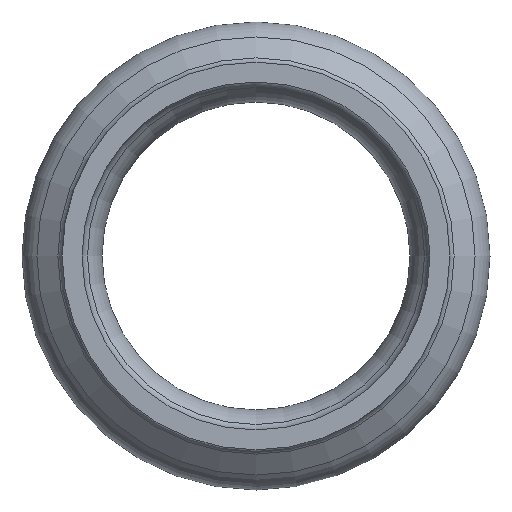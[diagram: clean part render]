
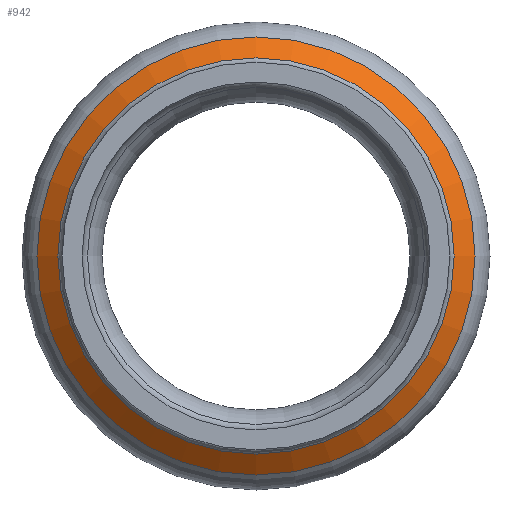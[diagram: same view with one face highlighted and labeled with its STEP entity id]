
A CAD part, left-side view. The second image highlights one B-rep face of the part: STEP entity #942.
In plain terms, the highlighted conical face has half-angle 52.062 degrees and reference radius 28.939 mm.
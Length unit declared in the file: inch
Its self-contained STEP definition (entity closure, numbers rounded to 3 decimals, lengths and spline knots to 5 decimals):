
#59=LINE('',#1597,#77);
#77=VECTOR('',#1210,1.13934);
#95=CONICAL_SURFACE('',#1009,1.13934,0.909);
#104=FACE_OUTER_BOUND('',#144,.T.);
#144=EDGE_LOOP('',(#587,#588,#589,#590,#591,#592,#593,#594));
#187=CIRCLE('',#1004,1.08211);
#188=CIRCLE('',#1005,1.08211);
#189=CIRCLE('',#1006,1.08211);
#192=CIRCLE('',#1010,1.19657);
#193=CIRCLE('',#1011,1.19657);
#194=CIRCLE('',#1012,1.19657);
#319=VERTEX_POINT('',#1581);
#320=VERTEX_POINT('',#1583);
#321=VERTEX_POINT('',#1585);
#323=VERTEX_POINT('',#1592);
#324=VERTEX_POINT('',#1593);
#325=VERTEX_POINT('',#1595);
#431=EDGE_CURVE('',#320,#319,#187,.T.);
#432=EDGE_CURVE('',#321,#320,#188,.T.);
#433=EDGE_CURVE('',#319,#321,#189,.T.);
#436=EDGE_CURVE('',#323,#324,#192,.T.);
#437=EDGE_CURVE('',#325,#323,#193,.T.);
#438=EDGE_CURVE('',#325,#321,#59,.T.);
#439=EDGE_CURVE('',#324,#325,#194,.T.);
#587=ORIENTED_EDGE('',*,*,#436,.F.);
#588=ORIENTED_EDGE('',*,*,#437,.F.);
#589=ORIENTED_EDGE('',*,*,#438,.T.);
#590=ORIENTED_EDGE('',*,*,#432,.T.);
#591=ORIENTED_EDGE('',*,*,#431,.T.);
#592=ORIENTED_EDGE('',*,*,#433,.T.);
#593=ORIENTED_EDGE('',*,*,#438,.F.);
#594=ORIENTED_EDGE('',*,*,#439,.F.);
#942=ADVANCED_FACE('',(#104),#95,.T.);
#1004=AXIS2_PLACEMENT_3D('',#1584,#1194,#1195);
#1005=AXIS2_PLACEMENT_3D('',#1586,#1196,#1197);
#1006=AXIS2_PLACEMENT_3D('',#1587,#1198,#1199);
#1009=AXIS2_PLACEMENT_3D('',#1591,#1204,#1205);
#1010=AXIS2_PLACEMENT_3D('',#1594,#1206,#1207);
#1011=AXIS2_PLACEMENT_3D('',#1596,#1208,#1209);
#1012=AXIS2_PLACEMENT_3D('',#1598,#1211,#1212);
#1194=DIRECTION('center_axis',(1.,0.,0.));
#1195=DIRECTION('ref_axis',(0.,1.,0.));
#1196=DIRECTION('center_axis',(1.,0.,0.));
#1197=DIRECTION('ref_axis',(0.,1.,0.));
#1198=DIRECTION('center_axis',(1.,0.,0.));
#1199=DIRECTION('ref_axis',(0.,1.,0.));
#1204=DIRECTION('center_axis',(1.,0.,0.));
#1205=DIRECTION('ref_axis',(0.,1.,0.));
#1206=DIRECTION('center_axis',(1.,0.,0.));
#1207=DIRECTION('ref_axis',(0.,1.,0.));
#1208=DIRECTION('center_axis',(1.,0.,0.));
#1209=DIRECTION('ref_axis',(0.,1.,0.));
#1210=DIRECTION('',(-0.615,0.789,0.));
#1211=DIRECTION('center_axis',(1.,0.,0.));
#1212=DIRECTION('ref_axis',(0.,1.,0.));
#1581=CARTESIAN_POINT('',(-1.458,0.,1.08211));
#1583=CARTESIAN_POINT('',(-1.458,1.08211,0.));
#1584=CARTESIAN_POINT('Origin',(-1.458,0.,0.));
#1585=CARTESIAN_POINT('',(-1.458,-1.08211,0.));
#1586=CARTESIAN_POINT('Origin',(-1.458,0.,0.));
#1587=CARTESIAN_POINT('Origin',(-1.458,0.,0.));
#1591=CARTESIAN_POINT('Origin',(-1.41339,0.,
0.));
#1592=CARTESIAN_POINT('',(-1.36878,1.19657,0.));
#1593=CARTESIAN_POINT('',(-1.36878,0.,1.19657));
#1594=CARTESIAN_POINT('Origin',(-1.36878,0.,
0.));
#1595=CARTESIAN_POINT('',(-1.36878,-1.19657,0.));
#1596=CARTESIAN_POINT('Origin',(-1.36878,0.,
0.));
#1597=CARTESIAN_POINT('',(-1.41339,-1.13934,0.));
#1598=CARTESIAN_POINT('Origin',(-1.36878,0.,
0.));
